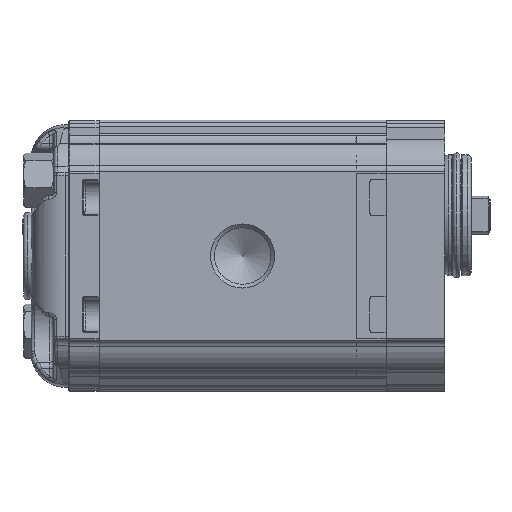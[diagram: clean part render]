
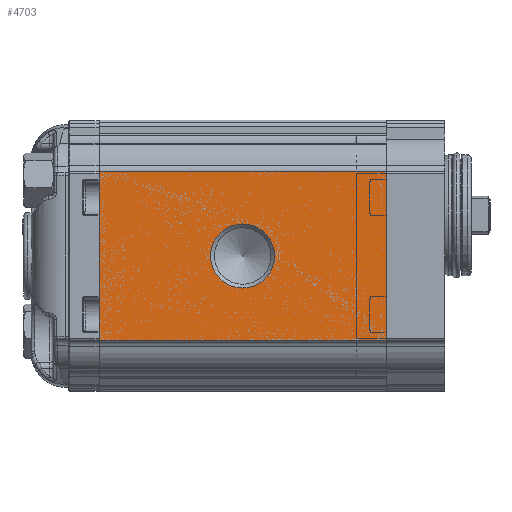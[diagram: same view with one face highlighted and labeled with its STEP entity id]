
A CAD part, left-side view. The second image highlights one B-rep face of the part: STEP entity #4703.
In plain terms, the highlighted planar face has unit normal (-1, 0, 0) as drawn and (1, 0, 0) by its records, which use the part's own axes.
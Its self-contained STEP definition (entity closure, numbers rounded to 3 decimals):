
#4703 = ADVANCED_FACE( '', ( #9986, #9987 ), #9988, .T. );
#9986 = FACE_BOUND( '', #18691, .T. );
#9987 = FACE_OUTER_BOUND( '', #18692, .T. );
#9988 = PLANE( '', #18693 );
#18691 = EDGE_LOOP( '', ( #33097 ) );
#18692 = EDGE_LOOP( '', ( #33098, #33099, #33100, #33101 ) );
#18693 = AXIS2_PLACEMENT_3D( '', #33102, #33103, #33104 );
#33097 = ORIENTED_EDGE( '', *, *, #42567, .T. );
#33098 = ORIENTED_EDGE( '', *, *, #41890, .T. );
#33099 = ORIENTED_EDGE( '', *, *, #42576, .T. );
#33100 = ORIENTED_EDGE( '', *, *, #38705, .T. );
#33101 = ORIENTED_EDGE( '', *, *, #42686, .F. );
#33102 = CARTESIAN_POINT( '', ( 33., 140.14, -45.494 ) );
#33103 = DIRECTION( '', ( 1., 0., 0. ) );
#33104 = DIRECTION( '', ( 0., 0., -1. ) );
#38705 = EDGE_CURVE( '', #46261, #46262, #46263, .F. );
#41890 = EDGE_CURVE( '', #50919, #50920, #50921, .T. );
#42567 = EDGE_CURVE( '', #51693, #51693, #51694, .F. );
#42576 = EDGE_CURVE( '', #50920, #46261, #51704, .T. );
#42686 = EDGE_CURVE( '', #50919, #46262, #51821, .T. );
#46261 = VERTEX_POINT( '', #58765 );
#46262 = VERTEX_POINT( '', #58766 );
#46263 = LINE( '', #58767, #58768 );
#50919 = VERTEX_POINT( '', #68245 );
#50920 = VERTEX_POINT( '', #68246 );
#50921 = LINE( '', #68247, #68248 );
#51693 = VERTEX_POINT( '', #69645 );
#51694 = CIRCLE( '', #69646, 8.475 );
#51704 = LINE( '', #69662, #69663 );
#51821 = LINE( '', #69890, #69891 );
#58765 = CARTESIAN_POINT( '', ( 33., 0., -22.5 ) );
#58766 = CARTESIAN_POINT( '', ( 33., 76., -22.5 ) );
#58767 = CARTESIAN_POINT( '', ( 33., 76., -22.5 ) );
#58768 = VECTOR( '', #73161, 1000. );
#68245 = CARTESIAN_POINT( '', ( 33., 76., 22.5 ) );
#68246 = CARTESIAN_POINT( '', ( 33., 0., 22.5 ) );
#68247 = CARTESIAN_POINT( '', ( 33., 76., 22.5 ) );
#68248 = VECTOR( '', #76797, 1000. );
#69645 = CARTESIAN_POINT( '', ( 33., 38., -8.475 ) );
#69646 = AXIS2_PLACEMENT_3D( '', #77383, #77384, #77385 );
#69662 = CARTESIAN_POINT( '', ( 33., 0., -21.711 ) );
#69663 = VECTOR( '', #77395, 1000. );
#69890 = CARTESIAN_POINT( '', ( 33., 76., -21.711 ) );
#69891 = VECTOR( '', #77478, 1000. );
#73161 = DIRECTION( '', ( 0., -1., 0. ) );
#76797 = DIRECTION( '', ( 0., -1., 0. ) );
#77383 = CARTESIAN_POINT( '', ( 33., 38., 0. ) );
#77384 = DIRECTION( '', ( 1., 0., 0. ) );
#77385 = DIRECTION( '', ( 0., 0., -1. ) );
#77395 = DIRECTION( '', ( 0., 0., -1. ) );
#77478 = DIRECTION( '', ( 0., 0., -1. ) );
